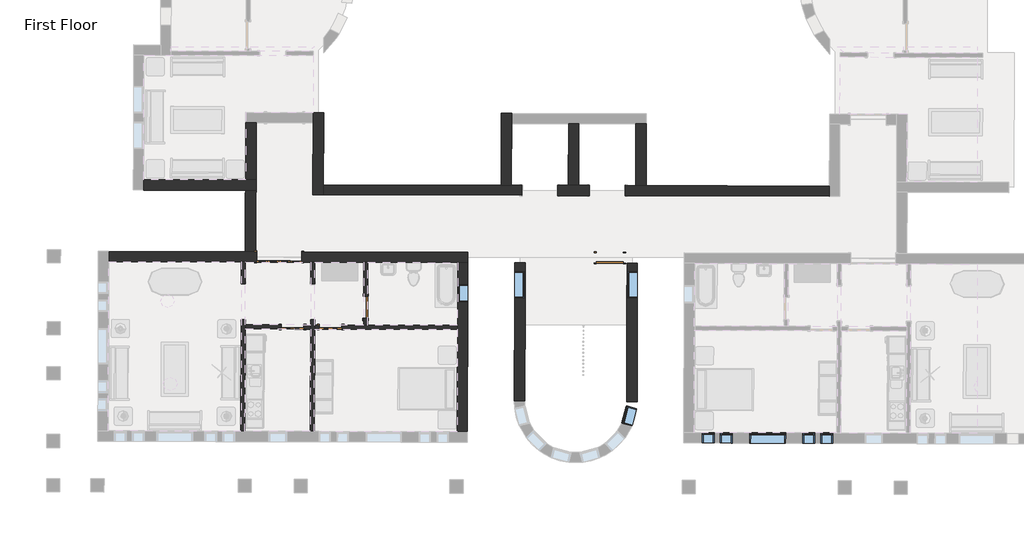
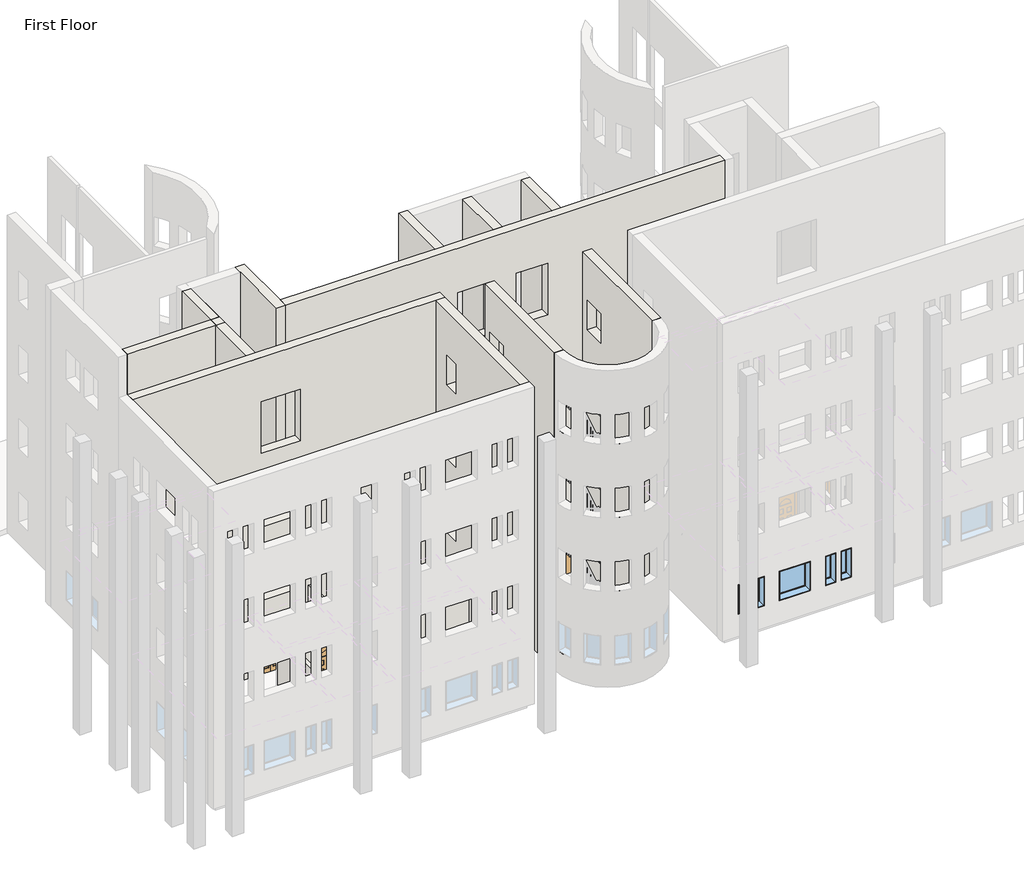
# One storey, part 3 of 22: 16 walls, 9 windows, 5 doors.
"""IFC4 building model written with IfcOpenShell, lengths in millimetres."""

from ifc_helpers import new_model, si_unit, frame, origin, origin_with_axes, place, context, project, spatial, polyline, outline, extrude, faceted_brep, transform, mapped, element, save
from components import m_bifold_4_panel_1525_x_2134mm_1ddae71f, m_single_decorative_2_0762_x_2134mm_0d0af7cb, m_single_decorative_2_0762_x_2134mm_2fe67c8e, m_single_flush_0762_x_2134mm_0d89e411, m_single_flush_0915_x_2134mm_70678a7c, m_fixed_0406_x_1220mm_57fee329, m_fixed_0406_x_1220mm_85c28f40, m_fixed_0610_x_1220mm_2c28ef1d, m_fixed_0915_x_1220mm_2a2509e7, m_fixed_1220_x_1220mm_8f5f8ad3

model = new_model("IFC4")

# Units and contexts
model_context = context("Model", 3, world=origin())
ifc_project = project(units=[si_unit("LENGTHUNIT", "METRE", prefix="MILLI")], contexts=[model_context])

# Site, building, storey
site = spatial("IfcSite", under=ifc_project)
building = spatial("IfcBuilding", under=site)
storey = spatial("IfcBuildingStorey", under=building, Name="First Floor", Elevation=0.0)

# Doors
placement = place(None, origin())
m_bifold_4_panel_1525_x_2134mm_shape = m_bifold_4_panel_1525_x_2134mm_1ddae71f(model_context)
element("IfcDoor", 1, ObjectType="M_Bifold-4 Panel : 1525 x 2134mm", at=placement, inside=storey, context=model_context, shape_type="MappedRepresentation", body=[
    mapped(m_bifold_4_panel_1525_x_2134mm_shape, transform((-29084.8596063, -35825.933405, 0.0), x_axis=(-0.9999958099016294, 0.0028948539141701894, 0.0), y_axis=(-0.0028948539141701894, -0.9999958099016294, 0.0), z_axis=(0.0, 0.0, 1.0))),
])
m_single_decorative_2_0762_x_2134mm_shape = m_single_decorative_2_0762_x_2134mm_0d0af7cb(model_context)
element("IfcDoor", 2, ObjectType="M_Single-Decorative 2 : 0762 x 2134mm", at=placement, inside=storey, context=model_context, shape_type="MappedRepresentation", body=[
    mapped(m_single_decorative_2_0762_x_2134mm_shape, transform((-28625.491904, -38204.0231719, 0.0), x_axis=(0.9999958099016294, -0.0028948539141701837, 0.0), y_axis=(0.0028948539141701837, 0.9999958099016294, 0.0), z_axis=(0.0, 0.0, 1.0))),
])
m_single_decorative_2_0762_x_2134mm_2_shape = m_single_decorative_2_0762_x_2134mm_2fe67c8e(model_context)
element("IfcDoor", 3, ObjectType="M_Single-Decorative 2 : 0762 x 2134mm", at=placement, inside=storey, context=model_context, shape_type="MappedRepresentation", body=[
    mapped(m_single_decorative_2_0762_x_2134mm_2_shape, transform((-27338.7472956, -38207.7481251, 0.0), x_axis=(-0.9999958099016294, 0.0028948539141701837, 0.0), y_axis=(-0.0028948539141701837, -0.9999958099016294, 0.0), z_axis=(0.0, 0.0, 1.0))),
])
m_single_flush_0762_x_2134mm_shape = m_single_flush_0762_x_2134mm_0d89e411(model_context)
element("IfcDoor", 4, ObjectType="M_Single-Flush : 0762 x 2134mm", at=placement, inside=storey, context=model_context, shape_type="MappedRepresentation", body=[
    mapped(m_single_flush_0762_x_2134mm_shape, transform((-26146.2902967, -37533.4472886, 0.0), x_axis=(-0.0028948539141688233, -0.9999958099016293, 0.0), y_axis=(0.9999958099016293, -0.0028948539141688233, 0.0), z_axis=(0.0, 0.0, 1.0))),
])
m_single_flush_0915_x_2134mm_shape = m_single_flush_0915_x_2134mm_70678a7c(model_context)
element("IfcDoor", 5, ObjectType="M_Single-Flush : 0915 x 2134mm", at=placement, inside=storey, context=model_context, shape_type="MappedRepresentation", body=[
    mapped(m_single_flush_0915_x_2134mm_shape, transform((-17860.906636, -35858.4252454, 0.0), x_axis=(0.9999958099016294, -0.0028948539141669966, 0.0), y_axis=(0.0028948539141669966, 0.9999958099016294, 0.0), z_axis=(0.0, 0.0, 1.0))),
])

# Walls
element("IfcWall", 6, ObjectType="Exterior - Brick on Mtl. Stud", at=placement, inside=storey, context=model_context, shape_type="Brep", body=[
    faceted_brep([(-27585.7548255, -33719.2642672, 0.0), (-27584.7416267, -33369.2657338, 0.0), (-27577.6828149, -30930.8759509, 0.0), (-27577.6828149, -30930.8759509, 13107.0), (-27584.7416267, -33369.2657338, 13107.0), (-27585.7548255, -33719.2642672, 13107.0), (-27935.753359, -33718.2510684, 0.0), (-27935.753359, -33718.2510684, 13107.0), (-27928.6945472, -31279.8612855, 13107.0), (-27928.6864352, -31277.0590728, 13107.0), (-27927.6813484, -30929.862752, 13107.0), (-27927.6813484, -30929.862752, 0.0), (-27928.6864352, -31277.0590728, 0.0), (-27928.6945472, -31279.8612855, 0.0), (-27578.1870186, -30930.8744913, 0.0), (-27578.1870186, -30930.8744913, 13107.0)], [[[0, 1, 2, 3, 4, 5]], [[6, 7, 8, 9, 10, 11, 12, 13]], [[2, 1, 0, 6, 13, 12, 11, 14]], [[5, 4, 3, 15, 10, 9, 8, 7]], [[3, 2, 14, 11, 10, 15]], [[0, 5, 7, 6]]]),
])
element("IfcWall", 7, ObjectType="Exterior - Brick on Mtl. Stud", at=placement, inside=storey, context=model_context, shape_type="Brep", body=[
    faceted_brep([(-30214.6849687, -31273.2436495, 0.0), (-30227.8258685, -35812.6246289, 0.0), (-30228.3614165, -35997.6238538, 0.0), (-30228.3614165, -35997.6238538, 13107.0), (-30214.6849687, -31273.2436495, 13107.0), (-29864.6864352, -31274.2568483, 0.0), (-29864.6864352, -31274.2568483, 13107.0), (-29877.3496842, -35648.6385192, 13107.0), (-29878.362883, -35998.6370526, 13107.0), (-29878.362883, -35998.6370526, 0.0), (-29877.827335, -35813.6378278, 0.0), (-29877.3496842, -35648.6385192, 0.0), (-30029.6857438, -31273.7791974, 0.0), (-30043.3621917, -35998.1594017, 0.0), (-30042.8266437, -35813.1601769, 0.0)], [[[0, 1, 2, 3, 4]], [[5, 6, 7, 8, 9, 10, 11]], [[4, 3, 8, 7, 6]], [[0, 4, 6, 5, 12]], [[3, 2, 13, 9, 8]], [[10, 9, 13, 14]], [[1, 0, 12, 14]], [[2, 1, 14, 13]], [[12, 5, 11, 10, 14]]]),
])
element("IfcWall", 8, ObjectType="Exterior - Brick on Mtl. Stud", at=placement, inside=storey, context=model_context, shape_type="Brep", body=[
    faceted_brep([(-18557.7794507, -33395.3975801, 0.0), (-18915.7779506, -33394.3612224, 0.0), (-19265.7764841, -33393.3480235, 0.0), (-19623.774984, -33392.3116658, 0.0), (-19623.774984, -33392.3116658, 2134.0), (-20843.7698721, -33388.779944, 2134.0), (-20843.7698721, -33388.779944, 0.0), (-21201.7683721, -33387.7435863, 0.0), (-21551.7669055, -33386.7303874, 0.0), (-27584.7416267, -33369.2657338, 0.0), (-27584.7416267, -33369.2657338, 13107.0), (-21551.7669055, -33386.7303874, 13107.0), (-21201.7683721, -33387.7435863, 13107.0), (-19265.7764841, -33393.3480235, 13107.0), (-18915.7779506, -33394.3612224, 13107.0), (-16979.7860627, -33399.9656595, 13107.0), (-16629.7875292, -33400.9788584, 13107.0), (-10408.8135958, -33418.9877446, 13107.0), (-10408.8135958, -33418.9877446, 0.0), (-16629.7875292, -33400.9788584, 0.0), (-16979.7860627, -33399.9656595, 0.0), (-17337.7845626, -33398.9293018, 0.0), (-17337.7845626, -33398.9293018, 2134.0), (-18557.7794507, -33395.3975801, 2134.0), (-20843.7698721, -33388.779944, 11278.0), (-20843.7698721, -33388.779944, 9144.0), (-19623.774984, -33392.3116658, 9144.0), (-19623.774984, -33392.3116658, 11278.0), (-17337.7845626, -33398.9293018, 11278.0), (-18557.7794507, -33395.3975801, 11278.0), (-18557.7794507, -33395.3975801, 9144.0), (-17337.7845626, -33398.9293018, 9144.0), (-20843.7698721, -33388.779944, 5182.0), (-20843.7698721, -33388.779944, 3048.0), (-19623.774984, -33392.3116658, 3048.0), (-19623.774984, -33392.3116658, 5182.0), (-17337.7845626, -33398.9293018, 5182.0), (-18557.7794507, -33395.3975801, 5182.0), (-18557.7794507, -33395.3975801, 3048.0), (-17337.7845626, -33398.9293018, 3048.0), (-20843.7698721, -33388.779944, 8230.0), (-20843.7698721, -33388.779944, 6096.0), (-19623.774984, -33392.3116658, 6096.0), (-19623.774984, -33392.3116658, 8230.0), (-17337.7845626, -33398.9293018, 8230.0), (-18557.7794507, -33395.3975801, 8230.0), (-18557.7794507, -33395.3975801, 6096.0), (-17337.7845626, -33398.9293018, 6096.0), (-19624.7881829, -33742.3101992, 2134.0), (-19624.7881829, -33742.3101992, 0.0), (-18558.7926496, -33745.3961135, 0.0), (-18558.7926496, -33745.3961135, 2134.0), (-17338.7977615, -33748.9278353, 2134.0), (-17338.7977615, -33748.9278353, 0.0), (-10409.8267947, -33768.9862781, 0.0), (-10409.8267947, -33768.9862781, 13107.0), (-27585.7548255, -33719.2642672, 13107.0), (-27585.7548255, -33719.2642672, 0.0), (-20844.783071, -33738.7784775, 0.0), (-20844.783071, -33738.7784775, 2134.0), (-20844.783071, -33738.7784775, 11278.0), (-19624.7881829, -33742.3101992, 11278.0), (-19624.7881829, -33742.3101992, 9144.0), (-20844.783071, -33738.7784775, 9144.0), (-17338.7977615, -33748.9278353, 11278.0), (-17338.7977615, -33748.9278353, 9144.0), (-18558.7926496, -33745.3961135, 9144.0), (-18558.7926496, -33745.3961135, 11278.0), (-20844.783071, -33738.7784775, 5182.0), (-19624.7881829, -33742.3101992, 5182.0), (-19624.7881829, -33742.3101992, 3048.0), (-20844.783071, -33738.7784775, 3048.0), (-17338.7977615, -33748.9278353, 5182.0), (-17338.7977615, -33748.9278353, 3048.0), (-18558.7926496, -33745.3961135, 3048.0), (-18558.7926496, -33745.3961135, 5182.0), (-20844.783071, -33738.7784775, 8230.0), (-19624.7881829, -33742.3101992, 8230.0), (-19624.7881829, -33742.3101992, 6096.0), (-20844.783071, -33738.7784775, 6096.0), (-17338.7977615, -33748.9278353, 8230.0), (-17338.7977615, -33748.9278353, 6096.0), (-18558.7926496, -33745.3961135, 6096.0), (-18558.7926496, -33745.3961135, 8230.0)], [[[0, 1, 2, 3, 4, 5, 6, 7, 8, 9, 10, 11, 12, 13, 14, 15, 16, 17, 18, 19, 20, 21, 22, 23], [24, 25, 26, 27], [28, 29, 30, 31], [32, 33, 34, 35], [36, 37, 38, 39], [40, 41, 42, 43], [44, 45, 46, 47]], [[48, 49, 50, 51, 52, 53, 54, 55, 56, 57, 58, 59], [60, 61, 62, 63], [64, 65, 66, 67], [68, 69, 70, 71], [72, 73, 74, 75], [76, 77, 78, 79], [80, 81, 82, 83]], [[58, 57, 9, 8, 7, 6]], [[50, 49, 3, 2, 1, 0]], [[21, 20, 19, 18, 54, 53]], [[17, 16, 15, 14, 13, 12, 11, 10, 56, 55]], [[10, 9, 57, 56]], [[18, 17, 55, 54]], [[53, 52, 22, 21]], [[51, 50, 0, 23]], [[52, 51, 23, 22]], [[6, 5, 59, 58]], [[4, 3, 49, 48]], [[5, 4, 48, 59]], [[25, 24, 60, 63]], [[26, 25, 63, 62]], [[27, 26, 62, 61]], [[24, 27, 61, 60]], [[65, 64, 28, 31]], [[66, 65, 31, 30]], [[67, 66, 30, 29]], [[64, 67, 29, 28]], [[33, 32, 68, 71]], [[34, 33, 71, 70]], [[35, 34, 70, 69]], [[32, 35, 69, 68]], [[73, 72, 36, 39]], [[74, 73, 39, 38]], [[75, 74, 38, 37]], [[72, 75, 37, 36]], [[41, 40, 76, 79]], [[42, 41, 79, 78]], [[43, 42, 78, 77]], [[40, 43, 77, 76]], [[81, 80, 44, 47]], [[82, 81, 47, 46]], [[83, 82, 46, 45]], [[80, 83, 45, 44]]]),
])
element("IfcWall", 9, ObjectType="Exterior - Brick on Mtl. Stud", at=placement, inside=storey, context=model_context, shape_type="SweptSolid", body=[
    extrude(outline(polyline([(1097.9999999, 0.0), (5800.0, 0.0), (5800.0, -13107.0), (1097.9999999, -13107.0), (1097.9999999, 0.0)]), holes=[polyline([(4602.4999999, -915.0), (4602.4999999, -2135.0), (5517.5, -2135.0), (5517.5, -915.0), (4602.4999999, -915.0)]), polyline([(4602.4999999, -10059.0), (4602.4999999, -11279.0), (5517.5, -11279.0), (5517.5, -10059.0), (4602.4999999, -10059.0)]), polyline([(4602.4999999, -3963.0), (4602.4999999, -5183.0), (5517.5, -5183.0), (5517.5, -3963.0), (4602.4999999, -3963.0)]), polyline([(4602.4999999, -7011.0), (4602.4999999, -8231.0), (5517.5, -8231.0), (5517.5, -7011.0), (4602.4999999, -7011.0)])]), frame((-20751.19135, -41825.0832942, 0.0), z_axis=(-0.9999958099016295, 0.002894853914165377, 0.0), x_axis=(0.002894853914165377, 0.9999958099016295, 0.0)), (0.0, 0.0, 1.0), 350.0),
])
element("IfcWall", 10, ObjectType="Exterior - Brick on Mtl. Stud", at=placement, inside=storey, context=model_context, shape_type="SweptSolid", body=[
    extrude(outline(polyline([(-175.0, 0.0), (-175.0, -13107.0), (-4877.0, -13107.0), (-4877.0, 0.0), (-175.0, 0.0)]), holes=[polyline([(-457.5, -915.0), (-1372.5, -915.0), (-1372.5, -2135.0), (-457.5, -2135.0), (-457.5, -915.0)]), polyline([(-457.5, -10059.0), (-1372.5, -10059.0), (-1372.5, -11279.0), (-457.5, -11279.0), (-457.5, -10059.0)]), polyline([(-457.5, -3963.0), (-1372.5, -3963.0), (-1372.5, -5183.0), (-457.5, -5183.0), (-457.5, -3963.0)]), polyline([(-457.5, -7011.0), (-1372.5, -7011.0), (-1372.5, -8231.0), (-457.5, -8231.0), (-457.5, -7011.0)])]), frame((-16923.9105621, -35861.1377235, 0.0), z_axis=(-0.9999958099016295, 0.0028948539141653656, 0.0), x_axis=(0.0028948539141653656, 0.9999958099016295, 0.0)), (0.0, 0.0, 1.0), 350.0),
])
element("IfcWall", 11, ObjectType="Exterior - Brick on Mtl. Stud", at=placement, inside=storey, context=model_context, shape_type="Brep", body=[
    faceted_brep([(-21201.7683721, -33387.7435863, 0.0), (-21195.7227592, -31299.3523369, 0.0), (-21194.7095603, -30949.3538034, 0.0), (-21194.7095603, -30949.3538034, 13107.0), (-21195.7227592, -31299.3523369, 13107.0), (-21201.7683721, -33387.7435863, 13107.0), (-21551.7669055, -33386.7303874, 0.0), (-21551.7669055, -33386.7303874, 13107.0), (-21544.7080937, -30948.3406046, 13107.0), (-21544.7080937, -30948.3406046, 0.0)], [[[0, 1, 2, 3, 4, 5]], [[6, 7, 8, 9]], [[2, 1, 0, 6, 9]], [[5, 4, 3, 8, 7]], [[0, 5, 7, 6]], [[3, 2, 9, 8]]]),
])
element("IfcWall", 12, ObjectType="Exterior - Brick on Mtl. Stud", at=placement, inside=storey, context=model_context, shape_type="SweptSolid", body=[
    extrude(outline(polyline([(-16979.7860627, -33399.9656595), (-16973.7404497, -31311.5744101), (-16623.7419163, -31312.587609), (-16629.7875292, -33400.9788584), (-16979.7860627, -33399.9656595)])), origin_with_axes(), (0.0, 0.0, 1.0), 13107.0),
])
element("IfcWall", 13, ObjectType="Exterior - Brick on Mtl. Stud", at=placement, inside=storey, context=model_context, shape_type="SweptSolid", body=[
    extrude(outline(polyline([(-19265.7764841, -33393.3480235), (-19259.7308712, -31304.9567741), (-18909.7323377, -31305.969973), (-18915.7779506, -33394.3612224), (-19265.7764841, -33393.3480235)])), origin_with_axes(), (0.0, 0.0, 1.0), 13107.0),
])
element("IfcWall", 14, ObjectType="Exterior - Brick on Mtl. Stud", at=placement, inside=storey, context=model_context, shape_type="Brep", body=[
    faceted_brep([(-22676.1430612, -36019.4865142, 13107.0), (-23026.1415946, -36018.4733154, 13107.0), (-34868.0919755, -35984.1924553, 13107.0), (-34868.0919755, -35984.1924553, 0.0), (-30363.8608487, -35997.2316011, 0.0), (-30228.3614165, -35997.6238538, 0.0), (-29847.8630108, -35998.7253457, 0.0), (-29847.8630108, -35998.7253457, 2134.0), (-28322.8694007, -36003.1399979, 2134.0), (-28322.8694007, -36003.1399979, 0.0), (-28010.1207112, -36004.0453635, 0.0), (-27874.6212789, -36004.4376162, 0.0), (-26209.6282554, -36009.2575479, 0.0), (-26074.1288232, -36009.6498006, 0.0), (-23026.1415946, -36018.4733154, 0.0), (-22676.1430612, -36019.4865142, 0.0), (-29847.8630108, -35998.7253457, 9144.0), (-29847.8630108, -35998.7253457, 11278.0), (-28322.8694007, -36003.1399979, 11278.0), (-28322.8694007, -36003.1399979, 9144.0), (-29847.8630108, -35998.7253457, 3048.0), (-29847.8630108, -35998.7253457, 5182.0), (-28322.8694007, -36003.1399979, 5182.0), (-28322.8694007, -36003.1399979, 3048.0), (-29847.8630108, -35998.7253457, 6096.0), (-29847.8630108, -35998.7253457, 8230.0), (-28322.8694007, -36003.1399979, 8230.0), (-28322.8694007, -36003.1399979, 6096.0), (-34867.0787766, -35634.1939218, 13107.0), (-22675.1298623, -35669.4879808, 13107.0), (-22675.1298623, -35669.4879808, 0.0), (-28321.8562019, -35653.1414644, 0.0), (-28321.8562018, -35653.1414644, 2134.0), (-29846.849812, -35648.7268122, 2134.0), (-29846.849812, -35648.7268122, 0.0), (-34867.0787766, -35634.1939218, 0.0), (-29846.849812, -35648.7268122, 9144.0), (-28321.8562019, -35653.1414644, 9144.0), (-28321.8562019, -35653.1414644, 11278.0), (-29846.849812, -35648.7268122, 11278.0), (-29846.849812, -35648.7268122, 3048.0), (-28321.8562019, -35653.1414644, 3048.0), (-28321.8562019, -35653.1414644, 5182.0), (-29846.849812, -35648.7268122, 5182.0), (-29846.849812, -35648.7268122, 6096.0), (-28321.8562019, -35653.1414644, 6096.0), (-28321.8562019, -35653.1414644, 8230.0), (-29846.849812, -35648.7268122, 8230.0)], [[[0, 1, 2, 3, 4, 5, 6, 7, 8, 9, 10, 11, 12, 13, 14, 15], [16, 17, 18, 19], [20, 21, 22, 23], [24, 25, 26, 27]], [[28, 29, 30, 31, 32, 33, 34, 35], [36, 37, 38, 39], [40, 41, 42, 43], [44, 45, 46, 47]], [[3, 35, 34, 6, 5, 4]], [[30, 15, 14, 13, 12, 11, 10, 9, 31]], [[2, 1, 0, 29, 28]], [[3, 2, 28, 35]], [[0, 15, 30, 29]], [[33, 7, 6, 34]], [[7, 33, 32, 8]], [[8, 32, 31, 9]], [[17, 16, 36, 39]], [[18, 17, 39, 38]], [[19, 18, 38, 37]], [[16, 19, 37, 36]], [[21, 20, 40, 43]], [[22, 21, 43, 42]], [[23, 22, 42, 41]], [[20, 23, 41, 40]], [[25, 24, 44, 47]], [[26, 25, 47, 46]], [[27, 26, 46, 45]], [[24, 27, 45, 44]]]),
])
element("IfcWall", 15, ObjectType="Exterior - Brick on Mtl. Stud", at=placement, inside=storey, context=model_context, shape_type="Brep", body=[
    faceted_brep([(-23026.1415946, -36018.4733154, 0.0), (-23032.3192129, -38152.4643737, 0.0), (-23032.7114656, -38287.9638059, 0.0), (-23042.7754252, -41764.4492391, 0.0), (-23042.7754252, -41764.4492391, 13107.0), (-23026.1415946, -36018.4733154, 13107.0), (-23030.0496474, -37368.4676587, 915.0), (-23028.2837865, -36758.4702147, 915.0), (-23028.2837865, -36758.4702147, 2135.0), (-23030.0496474, -37368.4676587, 2135.0), (-23030.0496474, -37368.4676587, 10059.0), (-23028.2837865, -36758.4702147, 10059.0), (-23028.2837865, -36758.4702147, 11279.0), (-23030.0496474, -37368.4676587, 11279.0), (-23030.0496474, -37368.4676587, 3963.0), (-23028.2837865, -36758.4702147, 3963.0), (-23028.2837865, -36758.4702147, 5183.0), (-23030.0496474, -37368.4676587, 5183.0), (-23030.0496474, -37368.4676587, 7011.0), (-23028.2837865, -36758.4702147, 7011.0), (-23028.2837865, -36758.4702147, 8231.0), (-23030.0496474, -37368.4676587, 8231.0), (-22676.1430612, -36019.4865142, 0.0), (-22676.1430612, -36019.4865142, 13107.0), (-22692.7768917, -41765.4624379, 13107.0), (-22692.7768917, -41765.4624379, 0.0), (-22680.0511139, -37369.4808576, 915.0), (-22680.0511139, -37369.4808576, 2135.0), (-22678.2852531, -36759.4834136, 2135.0), (-22678.2852531, -36759.4834136, 915.0), (-22680.0511139, -37369.4808576, 10059.0), (-22680.0511139, -37369.4808576, 11279.0), (-22678.2852531, -36759.4834136, 11279.0), (-22678.2852531, -36759.4834136, 10059.0), (-22680.0511139, -37369.4808576, 3963.0), (-22680.0511139, -37369.4808576, 5183.0), (-22678.2852531, -36759.4834136, 5183.0), (-22678.2852531, -36759.4834136, 3963.0), (-22680.0511139, -37369.4808576, 7011.0), (-22680.0511139, -37369.4808576, 8231.0), (-22678.2852531, -36759.4834136, 8231.0), (-22678.2852531, -36759.4834136, 7011.0), (-22861.142286, -36018.9509663, 0.0), (-22877.7761166, -41764.9268899, 0.0)], [[[0, 1, 2, 3, 4, 5], [6, 7, 8, 9], [10, 11, 12, 13], [14, 15, 16, 17], [18, 19, 20, 21]], [[22, 23, 24, 25], [26, 27, 28, 29], [30, 31, 32, 33], [34, 35, 36, 37], [38, 39, 40, 41]], [[5, 4, 24, 23]], [[0, 5, 23, 22, 42]], [[4, 3, 43, 25, 24]], [[27, 26, 6, 9]], [[28, 27, 9, 8]], [[29, 28, 8, 7]], [[26, 29, 7, 6]], [[42, 22, 25, 43]], [[3, 2, 1, 0, 42, 43]], [[31, 30, 10, 13]], [[32, 31, 13, 12]], [[33, 32, 12, 11]], [[30, 33, 11, 10]], [[35, 34, 14, 17]], [[36, 35, 17, 16]], [[37, 36, 16, 15]], [[34, 37, 15, 14]], [[39, 38, 18, 21]], [[40, 39, 21, 20]], [[41, 40, 20, 19]], [[38, 41, 19, 18]]]),
])
element("IfcWall", 16, ObjectType="Exterior - Brick on Mtl. Stud", at=placement, inside=storey, context=model_context, shape_type="Brep", body=[
    faceted_brep([(-33677.9912656, -33554.7397512, 0.0), (-30052.9950629, -33559.9866794, 0.0), (-29867.9952567, -33560.2544537, 0.0), (-29867.9952567, -33560.2544537, 13107.0), (-33677.9912656, -33554.7397512, 13107.0), (-33677.4846656, -33204.7401178, 0.0), (-33677.4846656, -33204.7401178, 13107.0), (-30217.4882901, -33209.7482204, 13107.0), (-29867.4886567, -33210.2548203, 13107.0), (-29867.4886567, -33210.2548203, 0.0), (-30052.4884629, -33209.9870461, 0.0), (-30217.4882901, -33209.7482204, 0.0), (-33677.7234913, -33369.739945, 0.0), (-29867.7274824, -33375.2546475, 0.0), (-30052.7272886, -33374.9868732, 0.0)], [[[0, 1, 2, 3, 4]], [[5, 6, 7, 8, 9, 10, 11]], [[4, 3, 8, 7, 6]], [[0, 4, 6, 5, 12]], [[3, 2, 13, 9, 8]], [[10, 9, 13, 14]], [[1, 0, 12, 14]], [[2, 1, 14, 13]], [[12, 5, 11, 10, 14]]]),
])
element("IfcWall", 17, ObjectType="Exterior - Brick on Mtl. Stud", at=placement, inside=storey, context=model_context, shape_type="Brep", body=[
    faceted_brep([(-29867.4886567, -33210.2548203, 0.0), (-29864.6864352, -31274.2568483, 0.0), (-29864.6864352, -31274.2568483, 13107.0), (-29867.4886567, -33210.2548203, 13107.0), (-30217.4882901, -33209.7482204, 0.0), (-30217.4882901, -33209.7482204, 13107.0), (-30214.6853353, -31273.2436484, 13107.0), (-30214.6853353, -31273.2436484, 0.0), (-30052.4884629, -33209.9870461, 0.0), (-30049.6858538, -31273.7212998, 0.0)], [[[0, 1, 2, 3]], [[4, 5, 6, 7]], [[3, 2, 6, 5]], [[0, 3, 5, 4, 8]], [[1, 0, 8, 9]], [[8, 4, 7, 9]], [[2, 1, 9, 7, 6]]]),
])
element("IfcWall", 18, ObjectType="Interior - 135mm Partition (2-hr)", at=placement, inside=storey, context=model_context, shape_type="Brep", body=[
    faceted_brep([(-30244.9952471, -41743.5997775, 0.0), (-30234.9312874, -38267.1143443, 0.0), (-30234.5390347, -38131.6149121, 0.0), (-30234.0324353, -37956.6156454, 0.0), (-30234.0324353, -37956.6156454, 2134.0), (-30230.5007135, -36736.6207573, 2134.0), (-30230.5007135, -36736.6207573, 0.0), (-30228.3614165, -35997.6238538, 0.0), (-30228.3614165, -35997.6238538, 3048.0), (-30234.5390347, -38131.6149121, 3048.0), (-30234.9312874, -38267.1143443, 3048.0), (-30244.9952471, -41743.5997775, 3048.0), (-30369.5318675, -37956.2233926, 2134.0), (-30369.5318675, -37956.2233926, 0.0), (-30380.4946793, -41743.2075247, 0.0), (-30380.4946793, -41743.2075247, 3048.0), (-30363.8608487, -35997.2316011, 3048.0), (-30363.8608487, -35997.2316011, 0.0), (-30366.0001458, -36736.2285046, 0.0), (-30366.0001458, -36736.2285046, 2134.0)], [[[0, 1, 2, 3, 4, 5, 6, 7, 8, 9, 10, 11]], [[12, 13, 14, 15, 16, 17, 18, 19]], [[18, 17, 7, 6]], [[14, 13, 3, 2, 1, 0]], [[11, 10, 9, 8, 16, 15]], [[0, 11, 15, 14]], [[8, 7, 17, 16]], [[6, 5, 19, 18]], [[4, 3, 13, 12]], [[5, 4, 12, 19]]]),
])
element("IfcWall", 19, ObjectType="Interior - 135mm Partition (2-hr)", at=placement, inside=storey, context=model_context, shape_type="Brep", body=[
    faceted_brep([(-27876.760576, -36743.4345197, 2134.0), (-27876.760576, -36743.4345197, 0.0), (-27874.6212789, -36004.4376162, 0.0), (-27874.6212789, -36004.4376162, 3048.0), (-27880.7988972, -38138.4286745, 3048.0), (-27881.1911499, -38273.9281067, 3048.0), (-27891.2551095, -41750.4135399, 3048.0), (-27891.2551095, -41750.4135399, 0.0), (-27881.1911499, -38273.9281067, 0.0), (-27880.7988972, -38138.4286745, 0.0), (-27880.2922977, -37963.4294078, 0.0), (-27880.2922977, -37963.4294078, 2134.0), (-28010.1207112, -36004.0453635, 0.0), (-28012.2600082, -36743.042267, 0.0), (-28012.2600082, -36743.042267, 2134.0), (-28015.79173, -37963.037155, 2134.0), (-28015.79173, -37963.037155, 0.0), (-28016.2983294, -38138.0364218, 0.0), (-28016.6905821, -38273.535854, 0.0), (-28026.7545418, -41750.0212871, 0.0), (-28026.7545418, -41750.0212871, 3048.0), (-28016.6905821, -38273.535854, 3048.0), (-28016.2983294, -38138.0364218, 3048.0), (-28010.1207112, -36004.0453635, 3048.0)], [[[0, 1, 2, 3, 4, 5, 6, 7, 8, 9, 10, 11]], [[12, 13, 14, 15, 16, 17, 18, 19, 20, 21, 22, 23]], [[2, 1, 13, 12]], [[10, 9, 8, 7, 19, 18, 17, 16]], [[6, 5, 4, 3, 23, 22, 21, 20]], [[7, 6, 20, 19]], [[3, 2, 12, 23]], [[16, 15, 11, 10]], [[14, 13, 1, 0]], [[15, 14, 0, 11]]]),
])
element("IfcWall", 20, ObjectType="Interior - 135mm Partition (2-hr)", at=placement, inside=storey, context=model_context, shape_type="Brep", body=[
    faceted_brep([(-23032.3192129, -38152.4643737, 3048.0), (-23032.3192129, -38152.4643737, 0.0), (-26080.3064415, -38143.640859, 0.0), (-26215.8058737, -38143.2486063, 0.0), (-26957.5527657, -38141.1013484, 0.0), (-26957.5527657, -38141.1013484, 2134.0), (-27719.5495728, -38138.8954697, 2134.0), (-27719.5495728, -38138.8954697, 0.0), (-27880.7988972, -38138.4286745, 0.0), (-27880.7988972, -38138.4286745, 3048.0), (-26215.8058737, -38143.2486063, 3048.0), (-26080.3064415, -38143.640859, 3048.0), (-23032.7114656, -38287.9638059, 0.0), (-23032.7114656, -38287.9638059, 3048.0), (-27881.1911499, -38273.9281067, 3048.0), (-27881.1911499, -38273.9281067, 0.0), (-27719.9418255, -38274.3949019, 0.0), (-27719.9418255, -38274.3949019, 2134.0), (-26957.9450184, -38276.6007806, 2134.0), (-26957.9450184, -38276.6007806, 0.0)], [[[0, 1, 2, 3, 4, 5, 6, 7, 8, 9, 10, 11]], [[12, 13, 14, 15, 16, 17, 18, 19]], [[1, 12, 19, 4, 3, 2]], [[7, 16, 15, 8]], [[13, 0, 11, 10, 9, 14]], [[1, 0, 13, 12]], [[9, 8, 15, 14]], [[17, 16, 7, 6]], [[18, 17, 6, 5]], [[19, 18, 5, 4]]]),
    faceted_brep([(-30234.5390347, -38131.6149121, 0.0), (-30234.5390347, -38131.6149121, 3048.0), (-28016.2983294, -38138.0364218, 3048.0), (-28016.2983294, -38138.0364218, 0.0), (-28244.2973741, -38137.3763951, 0.0), (-28244.2973741, -38137.3763951, 2134.0), (-29006.2941812, -38135.1705164, 2134.0), (-29006.2941812, -38135.1705164, 0.0), (-30234.9312874, -38267.1143443, 3048.0), (-30234.9312874, -38267.1143443, 0.0), (-29006.6864339, -38270.6699486, 0.0), (-29006.6864339, -38270.6699486, 2134.0), (-28244.6896268, -38272.8758273, 2134.0), (-28244.6896268, -38272.8758273, 0.0), (-28016.6905821, -38273.535854, 0.0), (-28016.6905821, -38273.535854, 3048.0)], [[[0, 1, 2, 3, 4, 5, 6, 7]], [[8, 9, 10, 11, 12, 13, 14, 15]], [[9, 0, 7, 10]], [[13, 4, 3, 14]], [[1, 8, 15, 2]], [[1, 0, 9, 8]], [[3, 2, 15, 14]], [[5, 4, 13, 12]], [[6, 5, 12, 11]], [[7, 6, 11, 10]]]),
])
element("IfcWall", 21, ObjectType="Interior - 135mm Partition (2-hr)", at=placement, inside=storey, context=model_context, shape_type="SweptSolid", body=[
    extrude(outline(polyline([(-2309.0, 0.0), (-2080.0, 0.0), (-2080.0, -2134.0), (-1317.9999999, -2134.0), (-1317.9999999, 0.0), (-175.0, 0.0), (-175.0, -3048.0), (-2309.0, -3048.0), (-2309.0, 0.0)])), frame((-26073.6222238, -35834.6505339, 0.0), z_axis=(-0.9999958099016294, 0.0028948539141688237, 0.0), x_axis=(0.0028948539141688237, 0.9999958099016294, 0.0)), (0.0, 0.0, 1.0), 135.5),
])

# Windows
m_fixed_0406_x_1220mm_shape = m_fixed_0406_x_1220mm_57fee329(model_context)
element("IfcWindow", 22, ObjectType="M_Fixed : 0406 x 1220mm", at=placement, inside=storey, context=model_context, shape_type="MappedRepresentation", body=[
    mapped(m_fixed_0406_x_1220mm_shape, transform((-10500.8722121, -41988.7571565, 0.0), x_axis=(0.9999958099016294, -0.002894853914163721, 0.0), y_axis=(0.002894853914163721, 0.9999958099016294, 0.0), z_axis=(0.0, 0.0, 1.0))),
])
element("IfcWindow", 23, ObjectType="M_Fixed : 0406 x 1220mm", at=placement, inside=storey, context=model_context, shape_type="MappedRepresentation", body=[
    mapped(m_fixed_0406_x_1220mm_shape, transform((-11110.8696561, -41986.9912956, 0.0), x_axis=(0.9999958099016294, -0.002894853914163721, 0.0), y_axis=(0.002894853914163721, 0.9999958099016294, 0.0), z_axis=(0.0, 0.0, 1.0))),
])
m_fixed_0406_x_1220mm_2_shape = m_fixed_0406_x_1220mm_85c28f40(model_context)
element("IfcWindow", 24, ObjectType="M_Fixed : 0406 x 1220mm", at=placement, inside=storey, context=model_context, shape_type="MappedRepresentation", body=[
    mapped(m_fixed_0406_x_1220mm_2_shape, transform((-14514.855393, -41977.1372129, 0.0), x_axis=(-0.9999958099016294, 0.002894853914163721, 0.0), y_axis=(-0.002894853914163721, -0.9999958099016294, 0.0), z_axis=(0.0, 0.0, 1.0))),
])
element("IfcWindow", 25, ObjectType="M_Fixed : 0406 x 1220mm", at=placement, inside=storey, context=model_context, shape_type="MappedRepresentation", body=[
    mapped(m_fixed_0406_x_1220mm_2_shape, transform((-13904.857949, -41978.9030738, 0.0), x_axis=(-0.9999958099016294, 0.002894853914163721, 0.0), y_axis=(-0.002894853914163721, -0.9999958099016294, 0.0), z_axis=(0.0, 0.0, 1.0))),
])
m_fixed_0610_x_1220mm_shape = m_fixed_0610_x_1220mm_2c28ef1d(model_context)
element("IfcWindow", 26, ObjectType="M_Fixed : 0610 x 1220mm", at=placement, inside=storey, context=model_context, shape_type="MappedRepresentation", body=[
    mapped(m_fixed_0610_x_1220mm_shape, transform((-17192.9734341, -41226.7827416, 0.0), x_axis=(0.2616141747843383, 0.9651725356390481, 0.0), y_axis=(-0.9651725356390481, 0.2616141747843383, 0.0), z_axis=(0.0, 0.0, 1.0))),
])
element("IfcWindow", 27, ObjectType="M_Fixed : 0610 x 1220mm", at=placement, inside=storey, context=model_context, shape_type="MappedRepresentation", body=[
    mapped(m_fixed_0610_x_1220mm_shape, transform((-22841.1675047, -37064.0131692, 0.0), x_axis=(0.0028948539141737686, 0.9999958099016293, 0.0), y_axis=(-0.9999958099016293, 0.0028948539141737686, 0.0), z_axis=(0.0, 0.0, 1.0))),
])
m_fixed_0915_x_1220mm_shape = m_fixed_0915_x_1220mm_2a2509e7(model_context)
element("IfcWindow", 28, ObjectType="M_Fixed : 0915 x 1220mm", at=placement, inside=storey, context=model_context, shape_type="MappedRepresentation", body=[
    mapped(m_fixed_0915_x_1220mm_shape, transform((-20924.5426014, -36764.5602636, 0.0), x_axis=(0.002894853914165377, 0.9999958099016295, 0.0), y_axis=(-0.9999958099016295, 0.002894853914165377, 0.0), z_axis=(0.0, 0.0, 1.0))),
])
element("IfcWindow", 29, ObjectType="M_Fixed : 0915 x 1220mm", at=placement, inside=storey, context=model_context, shape_type="MappedRepresentation", body=[
    mapped(m_fixed_0915_x_1220mm_shape, transform((-17088.5586747, -36775.6649232, 0.0), x_axis=(-0.0028948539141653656, -0.9999958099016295, 0.0), y_axis=(0.9999958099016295, -0.0028948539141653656, 0.0), z_axis=(0.0, 0.0, 1.0))),
])
m_fixed_1220_x_1220mm_shape = m_fixed_1220_x_1220mm_8f5f8ad3(model_context)
element("IfcWindow", 30, ObjectType="M_Fixed : 1220 x 1220mm", at=placement, inside=storey, context=model_context, shape_type="MappedRepresentation", body=[
    mapped(m_fixed_1220_x_1220mm_shape, transform((-12507.8638025, -41982.9471847, 0.0), x_axis=(-0.9999958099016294, 0.002894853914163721, 0.0), y_axis=(-0.002894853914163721, -0.9999958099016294, 0.0), z_axis=(0.0, 0.0, 1.0))),
])

save(model, "model.ifc")
